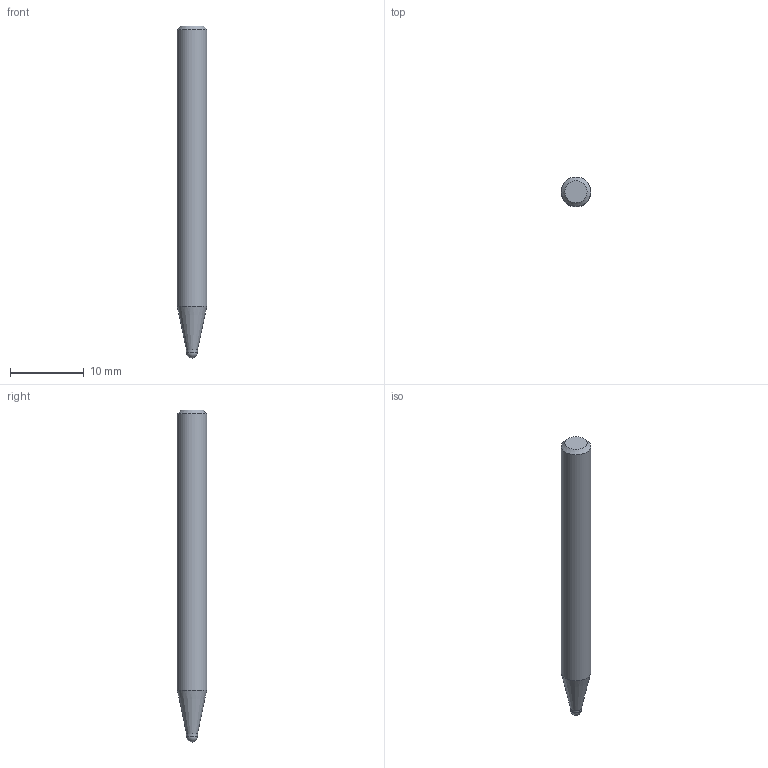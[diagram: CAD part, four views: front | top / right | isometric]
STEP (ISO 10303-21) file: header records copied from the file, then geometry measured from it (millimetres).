
FILE_DESCRIPTION((''),'2;1');
FILE_NAME('C:\Users\nsx150\AppData\Local\Temp\Mastercam 2021\CC00YWH0Y5\TEMP.step','2021-04-08T15:18:09',(''),(''),'STEP Write','Mastercam 2021 ... CNC Software, Inc.','');
FILE_SCHEMA(('AUTOMOTIVE_DESIGN'));
Length unit declared in the file: millimetre
Products named in the file (1): None
Bounding box: 4 x 4 x 45 mm (x, y, z)
Volume: 515.2 mm3; surface area: 547 mm2
Topology: 2 solids, 2 shells, 8 faces, 12 edges, 7 vertices
Faces by surface type: plane 3, cylinder 2, cone 2, sphere 1
Full cylindrical faces by diameter (mm): 1.5 x1, 4 x1
Entity records: 190 total; most frequent: DIRECTION 32, CARTESIAN_POINT 22, AXIS2_PLACEMENT_3D 16, ORIENTED_EDGE 12, EDGE_LOOP 12, STYLED_ITEM 11, ADVANCED_FACE 8, VERTEX_POINT 6
